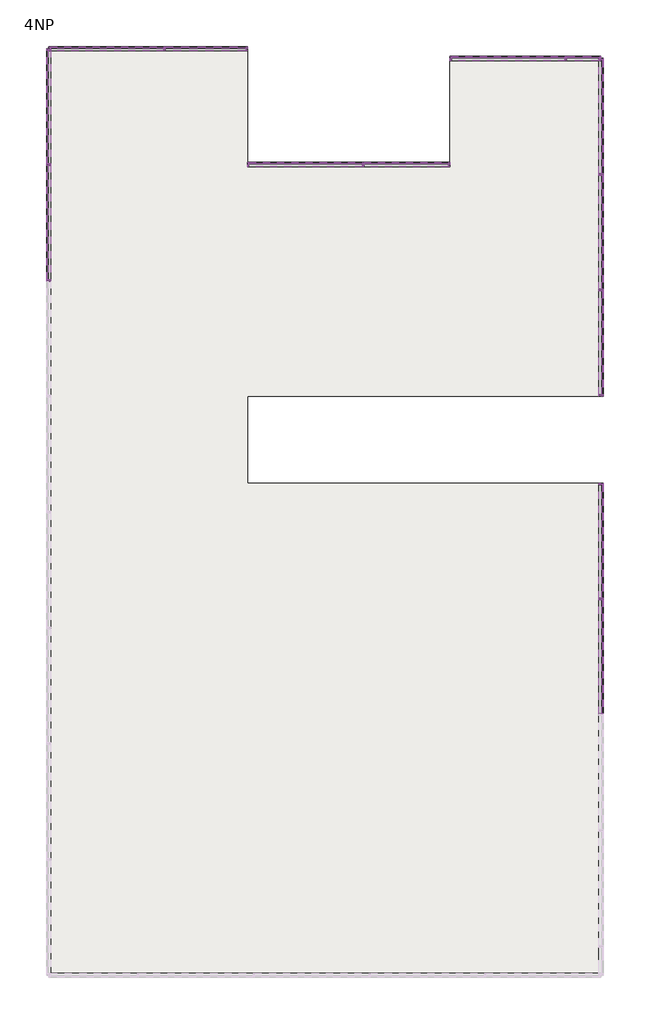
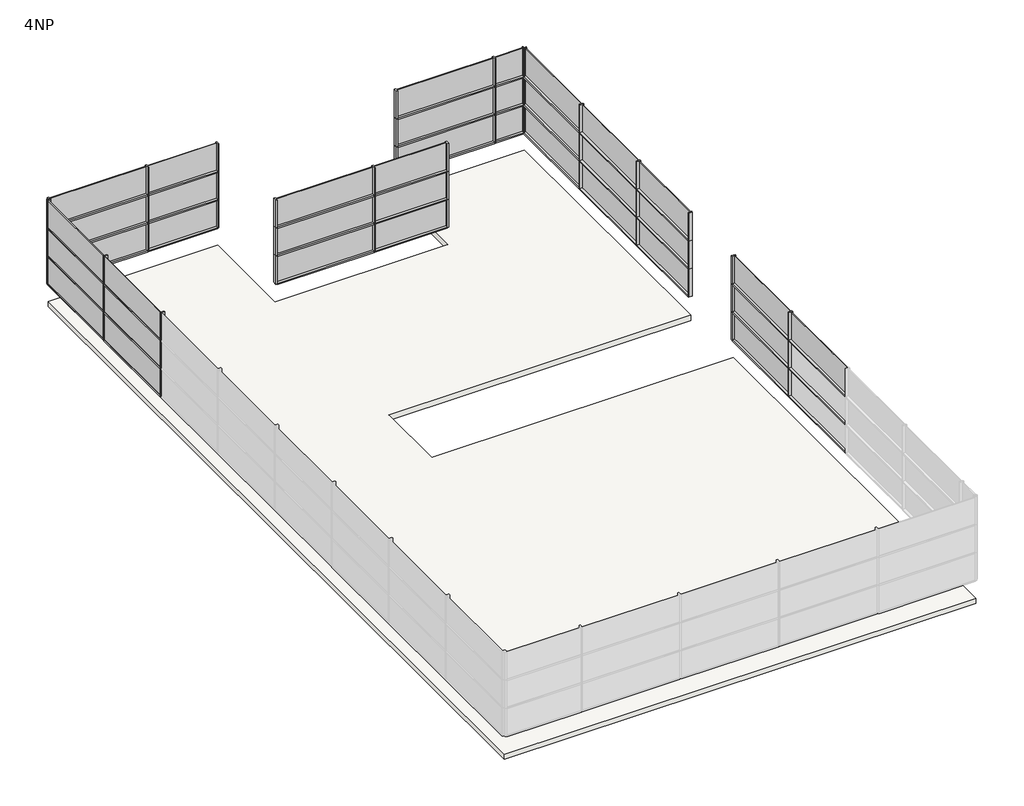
# One storey, part 2 of 2: 93 members, 37 plates, 1 slab.
"""IFC4 building model written with IfcOpenShell, lengths in millimetres."""

from ifc_helpers import new_model, si_unit, frame, origin, place, context, project, spatial, polyline, outline, extrude, transform, mapped, element, save
from components import rectangular_mullion_50_x_150mm_d99dc9be, rectangular_mullion_50_x_150mm_6588f46c, rectangular_mullion_50_x_150mm_3fe1b35e, rectangular_mullion_50_x_150mm_a037c29c, rectangular_mullion_50_x_150mm_c2546fd4, rectangular_mullion_50_x_150mm_8b4cb4b7, rectangular_mullion_50_x_150mm_185cfd49, rectangular_mullion_50_x_150mm_2fe63767, system_panel_glazed_8e9402eb, system_panel_glazed_89ac83a7, system_panel_glazed_5566c609, system_panel_glazed_e890f31e, system_panel_glazed_e3e91f99, system_panel_glazed_39d17f19

model = new_model("IFC4")

# Units and contexts
model_context = context("Model", 3, world=origin())
ifc_project = project(units=[si_unit("LENGTHUNIT", "METRE", prefix="MILLI")], contexts=[model_context])

# Site, building, storey
site = spatial("IfcSite", under=ifc_project)
building = spatial("IfcBuilding", under=site)
storey = spatial("IfcBuildingStorey", under=building, Name="4NP", Elevation=16000.0)

# Members
placement = place(None, origin())
rectangular_mullion_50_x_150mm_shape = rectangular_mullion_50_x_150mm_d99dc9be(model_context)
element("IfcMember", 1, ObjectType="Rectangular Mullion : 50 x 150mm", at=placement, inside=storey, context=model_context, shape_type="MappedRepresentation", body=[
    mapped(rectangular_mullion_50_x_150mm_shape, transform((13503.2660975, 39.3555415, 20400.0), x_axis=(0.0, -1.0, 0.0), y_axis=(1.0, 0.0, 0.0), z_axis=(0.0, 0.0, 1.0))),
])
element("IfcMember", 2, ObjectType="Rectangular Mullion : 50 x 150mm", at=placement, inside=storey, context=model_context, shape_type="MappedRepresentation", body=[
    mapped(rectangular_mullion_50_x_150mm_shape, transform((13503.2660975, 39.3555415, 19200.0), x_axis=(0.0, -1.0, 0.0), y_axis=(1.0, 0.0, 0.0), z_axis=(0.0, 0.0, 1.0))),
])
element("IfcMember", 3, ObjectType="Rectangular Mullion : 50 x 150mm", at=placement, inside=storey, context=model_context, shape_type="MappedRepresentation", body=[
    mapped(rectangular_mullion_50_x_150mm_shape, transform((13503.2660975, 39.3555415, 18000.0), x_axis=(0.0, -1.0, 0.0), y_axis=(1.0, 0.0, 0.0), z_axis=(0.0, 0.0, 1.0))),
])
element("IfcMember", 4, ObjectType="Rectangular Mullion : 50 x 150mm", at=placement, inside=storey, context=model_context, shape_type="MappedRepresentation", body=[
    mapped(rectangular_mullion_50_x_150mm_shape, transform((13503.2660975, 4039.3555415, 20400.0), x_axis=(0.0, -1.0, 0.0), y_axis=(1.0, 0.0, 0.0), z_axis=(0.0, 0.0, 1.0))),
])
element("IfcMember", 5, ObjectType="Rectangular Mullion : 50 x 150mm", at=placement, inside=storey, context=model_context, shape_type="MappedRepresentation", body=[
    mapped(rectangular_mullion_50_x_150mm_shape, transform((13503.2660975, 4039.3555415, 19200.0), x_axis=(0.0, -1.0, 0.0), y_axis=(1.0, 0.0, 0.0), z_axis=(0.0, 0.0, 1.0))),
])
element("IfcMember", 6, ObjectType="Rectangular Mullion : 50 x 150mm", at=placement, inside=storey, context=model_context, shape_type="MappedRepresentation", body=[
    mapped(rectangular_mullion_50_x_150mm_shape, transform((13503.2660975, 4039.3555415, 18000.0), x_axis=(0.0, -1.0, 0.0), y_axis=(1.0, 0.0, 0.0), z_axis=(0.0, 0.0, 1.0))),
])
element("IfcMember", 7, ObjectType="Rectangular Mullion : 50 x 150mm", at=placement, inside=storey, context=model_context, shape_type="MappedRepresentation", body=[
    mapped(rectangular_mullion_50_x_150mm_shape, transform((13503.2660975, -10624.0160434, 18000.0), x_axis=(0.0, -1.0, 0.0), y_axis=(1.0, 0.0, 0.0), z_axis=(0.0, 0.0, 1.0))),
])
element("IfcMember", 8, ObjectType="Rectangular Mullion : 50 x 150mm", at=placement, inside=storey, context=model_context, shape_type="MappedRepresentation", body=[
    mapped(rectangular_mullion_50_x_150mm_shape, transform((13503.2660975, -10624.0160434, 19200.0), x_axis=(0.0, -1.0, 0.0), y_axis=(1.0, 0.0, 0.0), z_axis=(0.0, 0.0, 1.0))),
])
element("IfcMember", 9, ObjectType="Rectangular Mullion : 50 x 150mm", at=placement, inside=storey, context=model_context, shape_type="MappedRepresentation", body=[
    mapped(rectangular_mullion_50_x_150mm_shape, transform((13503.2660975, -10624.0160434, 20400.0), x_axis=(0.0, -1.0, 0.0), y_axis=(1.0, 0.0, 0.0), z_axis=(0.0, 0.0, 1.0))),
])
element("IfcMember", 10, ObjectType="Rectangular Mullion : 50 x 150mm", at=placement, inside=storey, context=model_context, shape_type="MappedRepresentation", body=[
    mapped(rectangular_mullion_50_x_150mm_shape, transform((-5587.173406, 375.9839566, 18000.0), x_axis=(0.0, 1.0, 0.0), y_axis=(-1.0, 0.0, 0.0), z_axis=(0.0, 0.0, 1.0))),
])
element("IfcMember", 11, ObjectType="Rectangular Mullion : 50 x 150mm", at=placement, inside=storey, context=model_context, shape_type="MappedRepresentation", body=[
    mapped(rectangular_mullion_50_x_150mm_shape, transform((-5587.173406, 375.9839566, 19200.0), x_axis=(0.0, 1.0, 0.0), y_axis=(-1.0, 0.0, 0.0), z_axis=(0.0, 0.0, 1.0))),
])
element("IfcMember", 12, ObjectType="Rectangular Mullion : 50 x 150mm", at=placement, inside=storey, context=model_context, shape_type="MappedRepresentation", body=[
    mapped(rectangular_mullion_50_x_150mm_shape, transform((-5587.173406, 375.9839566, 20400.0), x_axis=(0.0, 1.0, 0.0), y_axis=(-1.0, 0.0, 0.0), z_axis=(0.0, 0.0, 1.0))),
])
element("IfcMember", 13, ObjectType="Rectangular Mullion : 50 x 150mm", at=placement, inside=storey, context=model_context, shape_type="MappedRepresentation", body=[
    mapped(rectangular_mullion_50_x_150mm_shape, transform((-5587.173406, 4375.9839566, 18000.0), x_axis=(0.0, 1.0, 0.0), y_axis=(-1.0, 0.0, 0.0), z_axis=(0.0, 0.0, 1.0))),
])
element("IfcMember", 14, ObjectType="Rectangular Mullion : 50 x 150mm", at=placement, inside=storey, context=model_context, shape_type="MappedRepresentation", body=[
    mapped(rectangular_mullion_50_x_150mm_shape, transform((-5587.173406, 4375.9839566, 19200.0), x_axis=(0.0, 1.0, 0.0), y_axis=(-1.0, 0.0, 0.0), z_axis=(0.0, 0.0, 1.0))),
])
element("IfcMember", 15, ObjectType="Rectangular Mullion : 50 x 150mm", at=placement, inside=storey, context=model_context, shape_type="MappedRepresentation", body=[
    mapped(rectangular_mullion_50_x_150mm_shape, transform((-5587.173406, 4375.9839566, 20400.0), x_axis=(0.0, 1.0, 0.0), y_axis=(-1.0, 0.0, 0.0), z_axis=(0.0, 0.0, 1.0))),
])
element("IfcMember", 16, ObjectType="Rectangular Mullion : 50 x 150mm", at=placement, inside=storey, context=model_context, shape_type="MappedRepresentation", body=[
    mapped(rectangular_mullion_50_x_150mm_shape, transform((-1587.173406, 8375.9839566, 18000.0), x_axis=(1.0, 0.0, 0.0), y_axis=(0.0, 1.0, 0.0), z_axis=(0.0, 0.0, 1.0))),
])
element("IfcMember", 17, ObjectType="Rectangular Mullion : 50 x 150mm", at=placement, inside=storey, context=model_context, shape_type="MappedRepresentation", body=[
    mapped(rectangular_mullion_50_x_150mm_shape, transform((-1587.173406, 8375.9839566, 19200.0), x_axis=(1.0, 0.0, 0.0), y_axis=(0.0, 1.0, 0.0), z_axis=(0.0, 0.0, 1.0))),
])
element("IfcMember", 18, ObjectType="Rectangular Mullion : 50 x 150mm", at=placement, inside=storey, context=model_context, shape_type="MappedRepresentation", body=[
    mapped(rectangular_mullion_50_x_150mm_shape, transform((-1587.173406, 8375.9839566, 20400.0), x_axis=(1.0, 0.0, 0.0), y_axis=(0.0, 1.0, 0.0), z_axis=(0.0, 0.0, 1.0))),
])
element("IfcMember", 19, ObjectType="Rectangular Mullion : 50 x 150mm", at=placement, inside=storey, context=model_context, shape_type="MappedRepresentation", body=[
    mapped(rectangular_mullion_50_x_150mm_shape, transform((5278.419219, 4375.9839566, 18000.0), x_axis=(1.0, 0.0, 0.0), y_axis=(0.0, 1.0, 0.0), z_axis=(0.0, 0.0, 1.0))),
])
element("IfcMember", 20, ObjectType="Rectangular Mullion : 50 x 150mm", at=placement, inside=storey, context=model_context, shape_type="MappedRepresentation", body=[
    mapped(rectangular_mullion_50_x_150mm_shape, transform((5278.419219, 4375.9839566, 19200.0), x_axis=(1.0, 0.0, 0.0), y_axis=(0.0, 1.0, 0.0), z_axis=(0.0, 0.0, 1.0))),
])
element("IfcMember", 21, ObjectType="Rectangular Mullion : 50 x 150mm", at=placement, inside=storey, context=model_context, shape_type="MappedRepresentation", body=[
    mapped(rectangular_mullion_50_x_150mm_shape, transform((5278.419219, 4375.9839566, 20400.0), x_axis=(1.0, 0.0, 0.0), y_axis=(0.0, 1.0, 0.0), z_axis=(0.0, 0.0, 1.0))),
])
element("IfcMember", 22, ObjectType="Rectangular Mullion : 50 x 150mm", at=placement, inside=storey, context=model_context, shape_type="MappedRepresentation", body=[
    mapped(rectangular_mullion_50_x_150mm_shape, transform((12278.419219, 8039.3555415, 18000.0), x_axis=(1.0, 0.0, 0.0), y_axis=(0.0, 1.0, 0.0), z_axis=(0.0, 0.0, 1.0))),
])
element("IfcMember", 23, ObjectType="Rectangular Mullion : 50 x 150mm", at=placement, inside=storey, context=model_context, shape_type="MappedRepresentation", body=[
    mapped(rectangular_mullion_50_x_150mm_shape, transform((12278.419219, 8039.3555415, 19200.0), x_axis=(1.0, 0.0, 0.0), y_axis=(0.0, 1.0, 0.0), z_axis=(0.0, 0.0, 1.0))),
])
element("IfcMember", 24, ObjectType="Rectangular Mullion : 50 x 150mm", at=placement, inside=storey, context=model_context, shape_type="MappedRepresentation", body=[
    mapped(rectangular_mullion_50_x_150mm_shape, transform((12278.419219, 8039.3555415, 20400.0), x_axis=(1.0, 0.0, 0.0), y_axis=(0.0, 1.0, 0.0), z_axis=(0.0, 0.0, 1.0))),
])
rectangular_mullion_50_x_150mm_2_shape = rectangular_mullion_50_x_150mm_6588f46c(model_context)
element("IfcMember", 25, ObjectType="Rectangular Mullion : 50 x 150mm", at=placement, inside=storey, context=model_context, shape_type="MappedRepresentation", body=[
    mapped(rectangular_mullion_50_x_150mm_2_shape, transform((13503.2660975, -3624.0160434, 20400.0), x_axis=(0.0, -1.0, 0.0), y_axis=(1.0, 0.0, 0.0), z_axis=(0.0, 0.0, 1.0))),
])
element("IfcMember", 26, ObjectType="Rectangular Mullion : 50 x 150mm", at=placement, inside=storey, context=model_context, shape_type="MappedRepresentation", body=[
    mapped(rectangular_mullion_50_x_150mm_2_shape, transform((13503.2660975, -3624.0160434, 19200.0), x_axis=(0.0, -1.0, 0.0), y_axis=(1.0, 0.0, 0.0), z_axis=(0.0, 0.0, 1.0))),
])
element("IfcMember", 27, ObjectType="Rectangular Mullion : 50 x 150mm", at=placement, inside=storey, context=model_context, shape_type="MappedRepresentation", body=[
    mapped(rectangular_mullion_50_x_150mm_2_shape, transform((13503.2660975, -3624.0160434, 18000.0), x_axis=(0.0, -1.0, 0.0), y_axis=(1.0, 0.0, 0.0), z_axis=(0.0, 0.0, 1.0))),
])
element("IfcMember", 28, ObjectType="Rectangular Mullion : 50 x 150mm", at=placement, inside=storey, context=model_context, shape_type="MappedRepresentation", body=[
    mapped(rectangular_mullion_50_x_150mm_2_shape, transform((-5587.173406, 8375.9839566, 18000.0), x_axis=(0.0, 1.0, 0.0), y_axis=(-1.0, 0.0, 0.0), z_axis=(0.0, 0.0, 1.0))),
])
element("IfcMember", 29, ObjectType="Rectangular Mullion : 50 x 150mm", at=placement, inside=storey, context=model_context, shape_type="MappedRepresentation", body=[
    mapped(rectangular_mullion_50_x_150mm_2_shape, transform((-5587.173406, 8375.9839566, 19200.0), x_axis=(0.0, 1.0, 0.0), y_axis=(-1.0, 0.0, 0.0), z_axis=(0.0, 0.0, 1.0))),
])
element("IfcMember", 30, ObjectType="Rectangular Mullion : 50 x 150mm", at=placement, inside=storey, context=model_context, shape_type="MappedRepresentation", body=[
    mapped(rectangular_mullion_50_x_150mm_2_shape, transform((-5587.173406, 8375.9839566, 20400.0), x_axis=(0.0, 1.0, 0.0), y_axis=(-1.0, 0.0, 0.0), z_axis=(0.0, 0.0, 1.0))),
])
element("IfcMember", 31, ObjectType="Rectangular Mullion : 50 x 150mm", at=placement, inside=storey, context=model_context, shape_type="MappedRepresentation", body=[
    mapped(rectangular_mullion_50_x_150mm_2_shape, transform((1278.419219, 8375.9839566, 18000.0), x_axis=(1.0, 0.0, 0.0), y_axis=(0.0, 1.0, 0.0), z_axis=(0.0, 0.0, 1.0))),
])
element("IfcMember", 32, ObjectType="Rectangular Mullion : 50 x 150mm", at=placement, inside=storey, context=model_context, shape_type="MappedRepresentation", body=[
    mapped(rectangular_mullion_50_x_150mm_2_shape, transform((1278.419219, 8375.9839566, 19200.0), x_axis=(1.0, 0.0, 0.0), y_axis=(0.0, 1.0, 0.0), z_axis=(0.0, 0.0, 1.0))),
])
element("IfcMember", 33, ObjectType="Rectangular Mullion : 50 x 150mm", at=placement, inside=storey, context=model_context, shape_type="MappedRepresentation", body=[
    mapped(rectangular_mullion_50_x_150mm_2_shape, transform((1278.419219, 8375.9839566, 20400.0), x_axis=(1.0, 0.0, 0.0), y_axis=(0.0, 1.0, 0.0), z_axis=(0.0, 0.0, 1.0))),
])
element("IfcMember", 34, ObjectType="Rectangular Mullion : 50 x 150mm", at=placement, inside=storey, context=model_context, shape_type="MappedRepresentation", body=[
    mapped(rectangular_mullion_50_x_150mm_2_shape, transform((8278.419219, 4375.9839566, 18000.0), x_axis=(1.0, 0.0, 0.0), y_axis=(0.0, 1.0, 0.0), z_axis=(0.0, 0.0, 1.0))),
])
element("IfcMember", 35, ObjectType="Rectangular Mullion : 50 x 150mm", at=placement, inside=storey, context=model_context, shape_type="MappedRepresentation", body=[
    mapped(rectangular_mullion_50_x_150mm_2_shape, transform((8278.419219, 4375.9839566, 19200.0), x_axis=(1.0, 0.0, 0.0), y_axis=(0.0, 1.0, 0.0), z_axis=(0.0, 0.0, 1.0))),
])
element("IfcMember", 36, ObjectType="Rectangular Mullion : 50 x 150mm", at=placement, inside=storey, context=model_context, shape_type="MappedRepresentation", body=[
    mapped(rectangular_mullion_50_x_150mm_2_shape, transform((8278.419219, 4375.9839566, 20400.0), x_axis=(1.0, 0.0, 0.0), y_axis=(0.0, 1.0, 0.0), z_axis=(0.0, 0.0, 1.0))),
])
element("IfcMember", 37, ObjectType="Rectangular Mullion : 50 x 150mm", at=placement, inside=storey, context=model_context, shape_type="MappedRepresentation", body=[
    mapped(rectangular_mullion_50_x_150mm_2_shape, transform((13503.2660975, 8039.3555415, 18000.0), x_axis=(1.0, 0.0, 0.0), y_axis=(0.0, 1.0, 0.0), z_axis=(0.0, 0.0, 1.0))),
])
element("IfcMember", 38, ObjectType="Rectangular Mullion : 50 x 150mm", at=placement, inside=storey, context=model_context, shape_type="MappedRepresentation", body=[
    mapped(rectangular_mullion_50_x_150mm_2_shape, transform((13503.2660975, 8039.3555415, 19200.0), x_axis=(1.0, 0.0, 0.0), y_axis=(0.0, 1.0, 0.0), z_axis=(0.0, 0.0, 1.0))),
])
element("IfcMember", 39, ObjectType="Rectangular Mullion : 50 x 150mm", at=placement, inside=storey, context=model_context, shape_type="MappedRepresentation", body=[
    mapped(rectangular_mullion_50_x_150mm_2_shape, transform((13503.2660975, 8039.3555415, 20400.0), x_axis=(1.0, 0.0, 0.0), y_axis=(0.0, 1.0, 0.0), z_axis=(0.0, 0.0, 1.0))),
])
rectangular_mullion_50_x_150mm_3_shape = rectangular_mullion_50_x_150mm_3fe1b35e(model_context)
element("IfcMember", 40, ObjectType="Rectangular Mullion : 50 x 150mm", at=placement, inside=storey, context=model_context, shape_type="MappedRepresentation", body=[
    mapped(rectangular_mullion_50_x_150mm_3_shape, transform((13503.2660975, 14.3555415, 19200.0), x_axis=(0.0, 0.0, 1.0), y_axis=(1.0, 0.0, 0.0), z_axis=(0.0, 1.0, 0.0))),
])
element("IfcMember", 41, ObjectType="Rectangular Mullion : 50 x 150mm", at=placement, inside=storey, context=model_context, shape_type="MappedRepresentation", body=[
    mapped(rectangular_mullion_50_x_150mm_3_shape, transform((13503.2660975, 14.3555415, 18000.0), x_axis=(0.0, 0.0, 1.0), y_axis=(1.0, 0.0, 0.0), z_axis=(0.0, 1.0, 0.0))),
])
element("IfcMember", 42, ObjectType="Rectangular Mullion : 50 x 150mm", at=placement, inside=storey, context=model_context, shape_type="MappedRepresentation", body=[
    mapped(rectangular_mullion_50_x_150mm_3_shape, transform((13503.2660975, 14.3555415, 16800.0), x_axis=(0.0, 0.0, 1.0), y_axis=(1.0, 0.0, 0.0), z_axis=(0.0, 1.0, 0.0))),
])
rectangular_mullion_50_x_150mm_4_shape = rectangular_mullion_50_x_150mm_a037c29c(model_context)
element("IfcMember", 43, ObjectType="Rectangular Mullion : 50 x 150mm", at=placement, inside=storey, context=model_context, shape_type="MappedRepresentation", body=[
    mapped(rectangular_mullion_50_x_150mm_4_shape, transform((13503.2660975, 4014.3555415, 19200.0), x_axis=(0.0, 0.0, 1.0), y_axis=(1.0, 0.0, 0.0), z_axis=(0.0, 1.0, 0.0))),
])
element("IfcMember", 44, ObjectType="Rectangular Mullion : 50 x 150mm", at=placement, inside=storey, context=model_context, shape_type="MappedRepresentation", body=[
    mapped(rectangular_mullion_50_x_150mm_4_shape, transform((13503.2660975, 4014.3555415, 18000.0), x_axis=(0.0, 0.0, 1.0), y_axis=(1.0, 0.0, 0.0), z_axis=(0.0, 1.0, 0.0))),
])
element("IfcMember", 45, ObjectType="Rectangular Mullion : 50 x 150mm", at=placement, inside=storey, context=model_context, shape_type="MappedRepresentation", body=[
    mapped(rectangular_mullion_50_x_150mm_4_shape, transform((13503.2660975, 4014.3555415, 16800.0), x_axis=(0.0, 0.0, 1.0), y_axis=(1.0, 0.0, 0.0), z_axis=(0.0, 1.0, 0.0))),
])
element("IfcMember", 46, ObjectType="Rectangular Mullion : 50 x 150mm", at=placement, inside=storey, context=model_context, shape_type="MappedRepresentation", body=[
    mapped(rectangular_mullion_50_x_150mm_4_shape, transform((13503.2660975, -10649.0160434, 16800.0), x_axis=(0.0, 0.0, 1.0), y_axis=(1.0, 0.0, 0.0), z_axis=(0.0, 1.0, 0.0))),
])
element("IfcMember", 47, ObjectType="Rectangular Mullion : 50 x 150mm", at=placement, inside=storey, context=model_context, shape_type="MappedRepresentation", body=[
    mapped(rectangular_mullion_50_x_150mm_4_shape, transform((13503.2660975, -10649.0160434, 18000.0), x_axis=(0.0, 0.0, 1.0), y_axis=(1.0, 0.0, 0.0), z_axis=(0.0, 1.0, 0.0))),
])
element("IfcMember", 48, ObjectType="Rectangular Mullion : 50 x 150mm", at=placement, inside=storey, context=model_context, shape_type="MappedRepresentation", body=[
    mapped(rectangular_mullion_50_x_150mm_4_shape, transform((13503.2660975, -10649.0160434, 19200.0), x_axis=(0.0, 0.0, 1.0), y_axis=(1.0, 0.0, 0.0), z_axis=(0.0, 1.0, 0.0))),
])
element("IfcMember", 49, ObjectType="Rectangular Mullion : 50 x 150mm", at=placement, inside=storey, context=model_context, shape_type="MappedRepresentation", body=[
    mapped(rectangular_mullion_50_x_150mm_4_shape, transform((-5587.173406, 400.9839566, 16800.0), x_axis=(0.0, 0.0, 1.0), y_axis=(-1.0, 0.0, 0.0), z_axis=(0.0, -1.0, 0.0))),
])
element("IfcMember", 50, ObjectType="Rectangular Mullion : 50 x 150mm", at=placement, inside=storey, context=model_context, shape_type="MappedRepresentation", body=[
    mapped(rectangular_mullion_50_x_150mm_4_shape, transform((-5587.173406, 400.9839566, 18000.0), x_axis=(0.0, 0.0, 1.0), y_axis=(-1.0, 0.0, 0.0), z_axis=(0.0, -1.0, 0.0))),
])
element("IfcMember", 51, ObjectType="Rectangular Mullion : 50 x 150mm", at=placement, inside=storey, context=model_context, shape_type="MappedRepresentation", body=[
    mapped(rectangular_mullion_50_x_150mm_4_shape, transform((-5587.173406, 400.9839566, 19200.0), x_axis=(0.0, 0.0, 1.0), y_axis=(-1.0, 0.0, 0.0), z_axis=(0.0, -1.0, 0.0))),
])
rectangular_mullion_50_x_150mm_5_shape = rectangular_mullion_50_x_150mm_c2546fd4(model_context)
element("IfcMember", 52, ObjectType="Rectangular Mullion : 50 x 150mm", at=placement, inside=storey, context=model_context, shape_type="MappedRepresentation", body=[
    mapped(rectangular_mullion_50_x_150mm_5_shape, transform((13503.2660975, 7989.3555415, 19200.0), x_axis=(0.0, 0.0, 1.0), y_axis=(1.0, 0.0, 0.0), z_axis=(0.0, 1.0, 0.0))),
])
element("IfcMember", 53, ObjectType="Rectangular Mullion : 50 x 150mm", at=placement, inside=storey, context=model_context, shape_type="MappedRepresentation", body=[
    mapped(rectangular_mullion_50_x_150mm_5_shape, transform((13503.2660975, 7989.3555415, 18000.0), x_axis=(0.0, 0.0, 1.0), y_axis=(1.0, 0.0, 0.0), z_axis=(0.0, 1.0, 0.0))),
])
element("IfcMember", 54, ObjectType="Rectangular Mullion : 50 x 150mm", at=placement, inside=storey, context=model_context, shape_type="MappedRepresentation", body=[
    mapped(rectangular_mullion_50_x_150mm_5_shape, transform((13503.2660975, 7989.3555415, 16800.0), x_axis=(0.0, 0.0, 1.0), y_axis=(1.0, 0.0, 0.0), z_axis=(0.0, 1.0, 0.0))),
])
element("IfcMember", 55, ObjectType="Rectangular Mullion : 50 x 150mm", at=placement, inside=storey, context=model_context, shape_type="MappedRepresentation", body=[
    mapped(rectangular_mullion_50_x_150mm_5_shape, transform((13503.2660975, -6674.0160434, 16800.0), x_axis=(0.0, 0.0, 1.0), y_axis=(1.0, 0.0, 0.0), z_axis=(0.0, 1.0, 0.0))),
])
element("IfcMember", 56, ObjectType="Rectangular Mullion : 50 x 150mm", at=placement, inside=storey, context=model_context, shape_type="MappedRepresentation", body=[
    mapped(rectangular_mullion_50_x_150mm_5_shape, transform((13503.2660975, -6674.0160434, 18000.0), x_axis=(0.0, 0.0, 1.0), y_axis=(1.0, 0.0, 0.0), z_axis=(0.0, 1.0, 0.0))),
])
element("IfcMember", 57, ObjectType="Rectangular Mullion : 50 x 150mm", at=placement, inside=storey, context=model_context, shape_type="MappedRepresentation", body=[
    mapped(rectangular_mullion_50_x_150mm_5_shape, transform((13503.2660975, -6674.0160434, 19200.0), x_axis=(0.0, 0.0, 1.0), y_axis=(1.0, 0.0, 0.0), z_axis=(0.0, 1.0, 0.0))),
])
element("IfcMember", 58, ObjectType="Rectangular Mullion : 50 x 150mm", at=placement, inside=storey, context=model_context, shape_type="MappedRepresentation", body=[
    mapped(rectangular_mullion_50_x_150mm_5_shape, transform((-5587.173406, 4400.9839566, 16800.0), x_axis=(0.0, 0.0, 1.0), y_axis=(-1.0, 0.0, 0.0), z_axis=(0.0, -1.0, 0.0))),
])
element("IfcMember", 59, ObjectType="Rectangular Mullion : 50 x 150mm", at=placement, inside=storey, context=model_context, shape_type="MappedRepresentation", body=[
    mapped(rectangular_mullion_50_x_150mm_5_shape, transform((-5587.173406, 4400.9839566, 18000.0), x_axis=(0.0, 0.0, 1.0), y_axis=(-1.0, 0.0, 0.0), z_axis=(0.0, -1.0, 0.0))),
])
element("IfcMember", 60, ObjectType="Rectangular Mullion : 50 x 150mm", at=placement, inside=storey, context=model_context, shape_type="MappedRepresentation", body=[
    mapped(rectangular_mullion_50_x_150mm_5_shape, transform((-5587.173406, 4400.9839566, 19200.0), x_axis=(0.0, 0.0, 1.0), y_axis=(-1.0, 0.0, 0.0), z_axis=(0.0, -1.0, 0.0))),
])
element("IfcMember", 61, ObjectType="Rectangular Mullion : 50 x 150mm", at=placement, inside=storey, context=model_context, shape_type="MappedRepresentation", body=[
    mapped(rectangular_mullion_50_x_150mm_5_shape, transform((-5537.173406, 8375.9839566, 18000.0), x_axis=(0.0, 0.0, 1.0), y_axis=(0.0, 1.0, 0.0), z_axis=(-1.0, 0.0, 0.0))),
])
element("IfcMember", 62, ObjectType="Rectangular Mullion : 50 x 150mm", at=placement, inside=storey, context=model_context, shape_type="MappedRepresentation", body=[
    mapped(rectangular_mullion_50_x_150mm_5_shape, transform((-5537.173406, 8375.9839566, 19200.0), x_axis=(0.0, 0.0, 1.0), y_axis=(0.0, 1.0, 0.0), z_axis=(-1.0, 0.0, 0.0))),
])
element("IfcMember", 63, ObjectType="Rectangular Mullion : 50 x 150mm", at=placement, inside=storey, context=model_context, shape_type="MappedRepresentation", body=[
    mapped(rectangular_mullion_50_x_150mm_5_shape, transform((-5537.173406, 8375.9839566, 16800.0), x_axis=(0.0, 0.0, 1.0), y_axis=(0.0, 1.0, 0.0), z_axis=(-1.0, 0.0, 0.0))),
])
element("IfcMember", 64, ObjectType="Rectangular Mullion : 50 x 150mm", at=placement, inside=storey, context=model_context, shape_type="MappedRepresentation", body=[
    mapped(rectangular_mullion_50_x_150mm_5_shape, transform((1328.419219, 4375.9839566, 16800.0), x_axis=(0.0, 0.0, 1.0), y_axis=(0.0, 1.0, 0.0), z_axis=(-1.0, 0.0, 0.0))),
])
element("IfcMember", 65, ObjectType="Rectangular Mullion : 50 x 150mm", at=placement, inside=storey, context=model_context, shape_type="MappedRepresentation", body=[
    mapped(rectangular_mullion_50_x_150mm_5_shape, transform((1328.419219, 4375.9839566, 18000.0), x_axis=(0.0, 0.0, 1.0), y_axis=(0.0, 1.0, 0.0), z_axis=(-1.0, 0.0, 0.0))),
])
element("IfcMember", 66, ObjectType="Rectangular Mullion : 50 x 150mm", at=placement, inside=storey, context=model_context, shape_type="MappedRepresentation", body=[
    mapped(rectangular_mullion_50_x_150mm_5_shape, transform((1328.419219, 4375.9839566, 19200.0), x_axis=(0.0, 0.0, 1.0), y_axis=(0.0, 1.0, 0.0), z_axis=(-1.0, 0.0, 0.0))),
])
element("IfcMember", 67, ObjectType="Rectangular Mullion : 50 x 150mm", at=placement, inside=storey, context=model_context, shape_type="MappedRepresentation", body=[
    mapped(rectangular_mullion_50_x_150mm_5_shape, transform((8328.419219, 8039.3555415, 16800.0), x_axis=(0.0, 0.0, 1.0), y_axis=(0.0, 1.0, 0.0), z_axis=(-1.0, 0.0, 0.0))),
])
element("IfcMember", 68, ObjectType="Rectangular Mullion : 50 x 150mm", at=placement, inside=storey, context=model_context, shape_type="MappedRepresentation", body=[
    mapped(rectangular_mullion_50_x_150mm_5_shape, transform((8328.419219, 8039.3555415, 18000.0), x_axis=(0.0, 0.0, 1.0), y_axis=(0.0, 1.0, 0.0), z_axis=(-1.0, 0.0, 0.0))),
])
element("IfcMember", 69, ObjectType="Rectangular Mullion : 50 x 150mm", at=placement, inside=storey, context=model_context, shape_type="MappedRepresentation", body=[
    mapped(rectangular_mullion_50_x_150mm_5_shape, transform((8328.419219, 8039.3555415, 19200.0), x_axis=(0.0, 0.0, 1.0), y_axis=(0.0, 1.0, 0.0), z_axis=(-1.0, 0.0, 0.0))),
])
element("IfcMember", 70, ObjectType="Rectangular Mullion : 50 x 150mm", at=placement, inside=storey, context=model_context, shape_type="MappedRepresentation", body=[
    mapped(rectangular_mullion_50_x_150mm_2_shape, transform((13503.2660975, 8039.3555415, 19200.0), x_axis=(0.0, 1.0, 0.0), y_axis=(1.0, 0.0, 0.0), z_axis=(0.0, 0.0, -1.0))),
])
element("IfcMember", 71, ObjectType="Rectangular Mullion : 50 x 150mm", at=placement, inside=storey, context=model_context, shape_type="MappedRepresentation", body=[
    mapped(rectangular_mullion_50_x_150mm_2_shape, transform((13503.2660975, 8039.3555415, 18000.0), x_axis=(0.0, 1.0, 0.0), y_axis=(1.0, 0.0, 0.0), z_axis=(0.0, 0.0, -1.0))),
])
element("IfcMember", 72, ObjectType="Rectangular Mullion : 50 x 150mm", at=placement, inside=storey, context=model_context, shape_type="MappedRepresentation", body=[
    mapped(rectangular_mullion_50_x_150mm_2_shape, transform((13503.2660975, 8039.3555415, 16800.0), x_axis=(0.0, 1.0, 0.0), y_axis=(1.0, 0.0, 0.0), z_axis=(0.0, 0.0, -1.0))),
])
element("IfcMember", 73, ObjectType="Rectangular Mullion : 50 x 150mm", at=placement, inside=storey, context=model_context, shape_type="MappedRepresentation", body=[
    mapped(rectangular_mullion_50_x_150mm_2_shape, transform((13503.2660975, -6624.0160434, 16800.0), x_axis=(0.0, 1.0, 0.0), y_axis=(1.0, 0.0, 0.0), z_axis=(0.0, 0.0, -1.0))),
])
element("IfcMember", 74, ObjectType="Rectangular Mullion : 50 x 150mm", at=placement, inside=storey, context=model_context, shape_type="MappedRepresentation", body=[
    mapped(rectangular_mullion_50_x_150mm_2_shape, transform((13503.2660975, -6624.0160434, 18000.0), x_axis=(0.0, 1.0, 0.0), y_axis=(1.0, 0.0, 0.0), z_axis=(0.0, 0.0, -1.0))),
])
element("IfcMember", 75, ObjectType="Rectangular Mullion : 50 x 150mm", at=placement, inside=storey, context=model_context, shape_type="MappedRepresentation", body=[
    mapped(rectangular_mullion_50_x_150mm_2_shape, transform((13503.2660975, -6624.0160434, 19200.0), x_axis=(0.0, 1.0, 0.0), y_axis=(1.0, 0.0, 0.0), z_axis=(0.0, 0.0, -1.0))),
])
element("IfcMember", 76, ObjectType="Rectangular Mullion : 50 x 150mm", at=placement, inside=storey, context=model_context, shape_type="MappedRepresentation", body=[
    mapped(rectangular_mullion_50_x_150mm_2_shape, transform((-5587.173406, 8375.9839566, 16800.0), x_axis=(-1.0, 0.0, 0.0), y_axis=(0.0, 1.0, 0.0), z_axis=(0.0, 0.0, -1.0))),
])
element("IfcMember", 77, ObjectType="Rectangular Mullion : 50 x 150mm", at=placement, inside=storey, context=model_context, shape_type="MappedRepresentation", body=[
    mapped(rectangular_mullion_50_x_150mm_2_shape, transform((-5587.173406, 8375.9839566, 18000.0), x_axis=(-1.0, 0.0, 0.0), y_axis=(0.0, 1.0, 0.0), z_axis=(0.0, 0.0, -1.0))),
])
element("IfcMember", 78, ObjectType="Rectangular Mullion : 50 x 150mm", at=placement, inside=storey, context=model_context, shape_type="MappedRepresentation", body=[
    mapped(rectangular_mullion_50_x_150mm_2_shape, transform((-5587.173406, 8375.9839566, 19200.0), x_axis=(-1.0, 0.0, 0.0), y_axis=(0.0, 1.0, 0.0), z_axis=(0.0, 0.0, -1.0))),
])
element("IfcMember", 79, ObjectType="Rectangular Mullion : 50 x 150mm", at=placement, inside=storey, context=model_context, shape_type="MappedRepresentation", body=[
    mapped(rectangular_mullion_50_x_150mm_2_shape, transform((1278.419219, 4375.9839566, 16800.0), x_axis=(-1.0, 0.0, 0.0), y_axis=(0.0, 1.0, 0.0), z_axis=(0.0, 0.0, -1.0))),
])
element("IfcMember", 80, ObjectType="Rectangular Mullion : 50 x 150mm", at=placement, inside=storey, context=model_context, shape_type="MappedRepresentation", body=[
    mapped(rectangular_mullion_50_x_150mm_2_shape, transform((1278.419219, 4375.9839566, 18000.0), x_axis=(-1.0, 0.0, 0.0), y_axis=(0.0, 1.0, 0.0), z_axis=(0.0, 0.0, -1.0))),
])
element("IfcMember", 81, ObjectType="Rectangular Mullion : 50 x 150mm", at=placement, inside=storey, context=model_context, shape_type="MappedRepresentation", body=[
    mapped(rectangular_mullion_50_x_150mm_2_shape, transform((1278.419219, 4375.9839566, 19200.0), x_axis=(-1.0, 0.0, 0.0), y_axis=(0.0, 1.0, 0.0), z_axis=(0.0, 0.0, -1.0))),
])
element("IfcMember", 82, ObjectType="Rectangular Mullion : 50 x 150mm", at=placement, inside=storey, context=model_context, shape_type="MappedRepresentation", body=[
    mapped(rectangular_mullion_50_x_150mm_2_shape, transform((8278.419219, 8039.3555415, 16800.0), x_axis=(-1.0, 0.0, 0.0), y_axis=(0.0, 1.0, 0.0), z_axis=(0.0, 0.0, -1.0))),
])
element("IfcMember", 83, ObjectType="Rectangular Mullion : 50 x 150mm", at=placement, inside=storey, context=model_context, shape_type="MappedRepresentation", body=[
    mapped(rectangular_mullion_50_x_150mm_2_shape, transform((8278.419219, 8039.3555415, 18000.0), x_axis=(-1.0, 0.0, 0.0), y_axis=(0.0, 1.0, 0.0), z_axis=(0.0, 0.0, -1.0))),
])
element("IfcMember", 84, ObjectType="Rectangular Mullion : 50 x 150mm", at=placement, inside=storey, context=model_context, shape_type="MappedRepresentation", body=[
    mapped(rectangular_mullion_50_x_150mm_2_shape, transform((8278.419219, 8039.3555415, 19200.0), x_axis=(-1.0, 0.0, 0.0), y_axis=(0.0, 1.0, 0.0), z_axis=(0.0, 0.0, -1.0))),
])
rectangular_mullion_50_x_150mm_6_shape = rectangular_mullion_50_x_150mm_8b4cb4b7(model_context)
element("IfcMember", 85, ObjectType="Rectangular Mullion : 50 x 150mm", at=placement, inside=storey, context=model_context, shape_type="MappedRepresentation", body=[
    mapped(rectangular_mullion_50_x_150mm_6_shape, transform((-1562.173406, 8375.9839566, 16800.0), x_axis=(0.0, 0.0, 1.0), y_axis=(0.0, 1.0, 0.0), z_axis=(-1.0, 0.0, 0.0))),
])
element("IfcMember", 86, ObjectType="Rectangular Mullion : 50 x 150mm", at=placement, inside=storey, context=model_context, shape_type="MappedRepresentation", body=[
    mapped(rectangular_mullion_50_x_150mm_6_shape, transform((-1562.173406, 8375.9839566, 18000.0), x_axis=(0.0, 0.0, 1.0), y_axis=(0.0, 1.0, 0.0), z_axis=(-1.0, 0.0, 0.0))),
])
element("IfcMember", 87, ObjectType="Rectangular Mullion : 50 x 150mm", at=placement, inside=storey, context=model_context, shape_type="MappedRepresentation", body=[
    mapped(rectangular_mullion_50_x_150mm_6_shape, transform((-1562.173406, 8375.9839566, 19200.0), x_axis=(0.0, 0.0, 1.0), y_axis=(0.0, 1.0, 0.0), z_axis=(-1.0, 0.0, 0.0))),
])
rectangular_mullion_50_x_150mm_7_shape = rectangular_mullion_50_x_150mm_185cfd49(model_context)
element("IfcMember", 88, ObjectType="Rectangular Mullion : 50 x 150mm", at=placement, inside=storey, context=model_context, shape_type="MappedRepresentation", body=[
    mapped(rectangular_mullion_50_x_150mm_7_shape, transform((5303.419219, 4375.9839566, 16800.0), x_axis=(0.0, 0.0, 1.0), y_axis=(0.0, 1.0, 0.0), z_axis=(-1.0, 0.0, 0.0))),
])
element("IfcMember", 89, ObjectType="Rectangular Mullion : 50 x 150mm", at=placement, inside=storey, context=model_context, shape_type="MappedRepresentation", body=[
    mapped(rectangular_mullion_50_x_150mm_7_shape, transform((5303.419219, 4375.9839566, 18000.0), x_axis=(0.0, 0.0, 1.0), y_axis=(0.0, 1.0, 0.0), z_axis=(-1.0, 0.0, 0.0))),
])
element("IfcMember", 90, ObjectType="Rectangular Mullion : 50 x 150mm", at=placement, inside=storey, context=model_context, shape_type="MappedRepresentation", body=[
    mapped(rectangular_mullion_50_x_150mm_7_shape, transform((5303.419219, 4375.9839566, 19200.0), x_axis=(0.0, 0.0, 1.0), y_axis=(0.0, 1.0, 0.0), z_axis=(-1.0, 0.0, 0.0))),
])
rectangular_mullion_50_x_150mm_8_shape = rectangular_mullion_50_x_150mm_2fe63767(model_context)
element("IfcMember", 91, ObjectType="Rectangular Mullion : 50 x 150mm", at=placement, inside=storey, context=model_context, shape_type="MappedRepresentation", body=[
    mapped(rectangular_mullion_50_x_150mm_8_shape, transform((12303.419219, 8039.3555415, 16800.0), x_axis=(0.0, 0.0, 1.0), y_axis=(0.0, 1.0, 0.0), z_axis=(-1.0, 0.0, 0.0))),
])
element("IfcMember", 92, ObjectType="Rectangular Mullion : 50 x 150mm", at=placement, inside=storey, context=model_context, shape_type="MappedRepresentation", body=[
    mapped(rectangular_mullion_50_x_150mm_8_shape, transform((12303.419219, 8039.3555415, 18000.0), x_axis=(0.0, 0.0, 1.0), y_axis=(0.0, 1.0, 0.0), z_axis=(-1.0, 0.0, 0.0))),
])
element("IfcMember", 93, ObjectType="Rectangular Mullion : 50 x 150mm", at=placement, inside=storey, context=model_context, shape_type="MappedRepresentation", body=[
    mapped(rectangular_mullion_50_x_150mm_8_shape, transform((12303.419219, 8039.3555415, 19200.0), x_axis=(0.0, 0.0, 1.0), y_axis=(0.0, 1.0, 0.0), z_axis=(-1.0, 0.0, 0.0))),
])

# Plates
system_panel_glazed_shape = system_panel_glazed_8e9402eb(model_context)
element("IfcPlate", 94, ObjectType="System Panel : Glazed", at=placement, inside=storey, context=model_context, shape_type="MappedRepresentation", body=[
    mapped(system_panel_glazed_shape, transform((-5587.173406, 6363.4839566, 16825.0), x_axis=(0.0, 1.0, 0.0), y_axis=(-1.0, 0.0, 0.0), z_axis=(0.0, 0.0, 1.0))),
])
element("IfcPlate", 95, ObjectType="System Panel : Glazed", at=placement, inside=storey, context=model_context, shape_type="MappedRepresentation", body=[
    mapped(system_panel_glazed_shape, transform((-5587.173406, 6363.4839566, 18025.0), x_axis=(0.0, 1.0, 0.0), y_axis=(-1.0, 0.0, 0.0), z_axis=(0.0, 0.0, 1.0))),
])
element("IfcPlate", 96, ObjectType="System Panel : Glazed", at=placement, inside=storey, context=model_context, shape_type="MappedRepresentation", body=[
    mapped(system_panel_glazed_shape, transform((-5587.173406, 6363.4839566, 19225.0), x_axis=(0.0, 1.0, 0.0), y_axis=(-1.0, 0.0, 0.0), z_axis=(0.0, 0.0, 1.0))),
])
element("IfcPlate", 97, ObjectType="System Panel : Glazed", at=placement, inside=storey, context=model_context, shape_type="MappedRepresentation", body=[
    mapped(system_panel_glazed_shape, transform((13503.2660975, -8636.5160434, 16825.0), x_axis=(0.0, -1.0, 0.0), y_axis=(1.0, 0.0, 0.0), z_axis=(0.0, 0.0, 1.0))),
])
element("IfcPlate", 98, ObjectType="System Panel : Glazed", at=placement, inside=storey, context=model_context, shape_type="MappedRepresentation", body=[
    mapped(system_panel_glazed_shape, transform((13503.2660975, -8636.5160434, 18025.0), x_axis=(0.0, -1.0, 0.0), y_axis=(1.0, 0.0, 0.0), z_axis=(0.0, 0.0, 1.0))),
])
element("IfcPlate", 99, ObjectType="System Panel : Glazed", at=placement, inside=storey, context=model_context, shape_type="MappedRepresentation", body=[
    mapped(system_panel_glazed_shape, transform((13503.2660975, -8636.5160434, 19225.0), x_axis=(0.0, -1.0, 0.0), y_axis=(1.0, 0.0, 0.0), z_axis=(0.0, 0.0, 1.0))),
])
element("IfcPlate", 100, ObjectType="System Panel : Glazed", at=placement, inside=storey, context=model_context, shape_type="MappedRepresentation", body=[
    mapped(system_panel_glazed_shape, transform((13503.2660975, 6026.8555415, 16825.0), x_axis=(0.0, -1.0, 0.0), y_axis=(1.0, 0.0, 0.0), z_axis=(0.0, 0.0, 1.0))),
])
element("IfcPlate", 101, ObjectType="System Panel : Glazed", at=placement, inside=storey, context=model_context, shape_type="MappedRepresentation", body=[
    mapped(system_panel_glazed_shape, transform((13503.2660975, 6026.8555415, 18025.0), x_axis=(0.0, -1.0, 0.0), y_axis=(1.0, 0.0, 0.0), z_axis=(0.0, 0.0, 1.0))),
])
element("IfcPlate", 102, ObjectType="System Panel : Glazed", at=placement, inside=storey, context=model_context, shape_type="MappedRepresentation", body=[
    mapped(system_panel_glazed_shape, transform((13503.2660975, 6026.8555415, 19225.0), x_axis=(0.0, -1.0, 0.0), y_axis=(1.0, 0.0, 0.0), z_axis=(0.0, 0.0, 1.0))),
])
element("IfcPlate", 103, ObjectType="System Panel : Glazed", at=placement, inside=storey, context=model_context, shape_type="MappedRepresentation", body=[
    mapped(system_panel_glazed_shape, transform((10290.919219, 8039.3555415, 16825.0), x_axis=(1.0, 0.0, 0.0), y_axis=(0.0, 1.0, 0.0), z_axis=(0.0, 0.0, 1.0))),
])
element("IfcPlate", 104, ObjectType="System Panel : Glazed", at=placement, inside=storey, context=model_context, shape_type="MappedRepresentation", body=[
    mapped(system_panel_glazed_shape, transform((10290.919219, 8039.3555415, 18025.0), x_axis=(1.0, 0.0, 0.0), y_axis=(0.0, 1.0, 0.0), z_axis=(0.0, 0.0, 1.0))),
])
element("IfcPlate", 105, ObjectType="System Panel : Glazed", at=placement, inside=storey, context=model_context, shape_type="MappedRepresentation", body=[
    mapped(system_panel_glazed_shape, transform((10290.919219, 8039.3555415, 19225.0), x_axis=(1.0, 0.0, 0.0), y_axis=(0.0, 1.0, 0.0), z_axis=(0.0, 0.0, 1.0))),
])
element("IfcPlate", 106, ObjectType="System Panel : Glazed", at=placement, inside=storey, context=model_context, shape_type="MappedRepresentation", body=[
    mapped(system_panel_glazed_shape, transform((3290.919219, 4375.9839566, 16825.0), x_axis=(1.0, 0.0, 0.0), y_axis=(0.0, 1.0, 0.0), z_axis=(0.0, 0.0, 1.0))),
])
element("IfcPlate", 107, ObjectType="System Panel : Glazed", at=placement, inside=storey, context=model_context, shape_type="MappedRepresentation", body=[
    mapped(system_panel_glazed_shape, transform((3290.919219, 4375.9839566, 18025.0), x_axis=(1.0, 0.0, 0.0), y_axis=(0.0, 1.0, 0.0), z_axis=(0.0, 0.0, 1.0))),
])
element("IfcPlate", 108, ObjectType="System Panel : Glazed", at=placement, inside=storey, context=model_context, shape_type="MappedRepresentation", body=[
    mapped(system_panel_glazed_shape, transform((3290.919219, 4375.9839566, 19225.0), x_axis=(1.0, 0.0, 0.0), y_axis=(0.0, 1.0, 0.0), z_axis=(0.0, 0.0, 1.0))),
])
element("IfcPlate", 109, ObjectType="System Panel : Glazed", at=placement, inside=storey, context=model_context, shape_type="MappedRepresentation", body=[
    mapped(system_panel_glazed_shape, transform((-3574.673406, 8375.9839566, 16825.0), x_axis=(1.0, 0.0, 0.0), y_axis=(0.0, 1.0, 0.0), z_axis=(0.0, 0.0, 1.0))),
])
element("IfcPlate", 110, ObjectType="System Panel : Glazed", at=placement, inside=storey, context=model_context, shape_type="MappedRepresentation", body=[
    mapped(system_panel_glazed_shape, transform((-3574.673406, 8375.9839566, 18025.0), x_axis=(1.0, 0.0, 0.0), y_axis=(0.0, 1.0, 0.0), z_axis=(0.0, 0.0, 1.0))),
])
element("IfcPlate", 111, ObjectType="System Panel : Glazed", at=placement, inside=storey, context=model_context, shape_type="MappedRepresentation", body=[
    mapped(system_panel_glazed_shape, transform((-3574.673406, 8375.9839566, 19225.0), x_axis=(1.0, 0.0, 0.0), y_axis=(0.0, 1.0, 0.0), z_axis=(0.0, 0.0, 1.0))),
])
system_panel_glazed_2_shape = system_panel_glazed_89ac83a7(model_context)
element("IfcPlate", 112, ObjectType="System Panel : Glazed", at=placement, inside=storey, context=model_context, shape_type="MappedRepresentation", body=[
    mapped(system_panel_glazed_2_shape, transform((-5587.173406, 2375.9839566, 16825.0), x_axis=(0.0, 1.0, 0.0), y_axis=(-1.0, 0.0, 0.0), z_axis=(0.0, 0.0, 1.0))),
])
element("IfcPlate", 113, ObjectType="System Panel : Glazed", at=placement, inside=storey, context=model_context, shape_type="MappedRepresentation", body=[
    mapped(system_panel_glazed_2_shape, transform((-5587.173406, 2375.9839566, 18025.0), x_axis=(0.0, 1.0, 0.0), y_axis=(-1.0, 0.0, 0.0), z_axis=(0.0, 0.0, 1.0))),
])
element("IfcPlate", 114, ObjectType="System Panel : Glazed", at=placement, inside=storey, context=model_context, shape_type="MappedRepresentation", body=[
    mapped(system_panel_glazed_2_shape, transform((-5587.173406, 2375.9839566, 19225.0), x_axis=(0.0, 1.0, 0.0), y_axis=(-1.0, 0.0, 0.0), z_axis=(0.0, 0.0, 1.0))),
])
element("IfcPlate", 115, ObjectType="System Panel : Glazed", at=placement, inside=storey, context=model_context, shape_type="MappedRepresentation", body=[
    mapped(system_panel_glazed_2_shape, transform((13503.2660975, -12624.0160434, 19225.0), x_axis=(0.0, -1.0, 0.0), y_axis=(1.0, 0.0, 0.0), z_axis=(0.0, 0.0, 1.0))),
])
element("IfcPlate", 116, ObjectType="System Panel : Glazed", at=placement, inside=storey, context=model_context, shape_type="MappedRepresentation", body=[
    mapped(system_panel_glazed_2_shape, transform((13503.2660975, 2039.3555415, 16825.0), x_axis=(0.0, -1.0, 0.0), y_axis=(1.0, 0.0, 0.0), z_axis=(0.0, 0.0, 1.0))),
])
element("IfcPlate", 117, ObjectType="System Panel : Glazed", at=placement, inside=storey, context=model_context, shape_type="MappedRepresentation", body=[
    mapped(system_panel_glazed_2_shape, transform((13503.2660975, 2039.3555415, 18025.0), x_axis=(0.0, -1.0, 0.0), y_axis=(1.0, 0.0, 0.0), z_axis=(0.0, 0.0, 1.0))),
])
element("IfcPlate", 118, ObjectType="System Panel : Glazed", at=placement, inside=storey, context=model_context, shape_type="MappedRepresentation", body=[
    mapped(system_panel_glazed_2_shape, transform((13503.2660975, 2039.3555415, 19225.0), x_axis=(0.0, -1.0, 0.0), y_axis=(1.0, 0.0, 0.0), z_axis=(0.0, 0.0, 1.0))),
])
system_panel_glazed_3_shape = system_panel_glazed_5566c609(model_context)
element("IfcPlate", 119, ObjectType="System Panel : Glazed", at=placement, inside=storey, context=model_context, shape_type="MappedRepresentation", body=[
    mapped(system_panel_glazed_3_shape, transform((13503.2660975, -1779.830251, 16825.0), x_axis=(0.0, -1.0, 0.0), y_axis=(1.0, 0.0, 0.0), z_axis=(0.0, 0.0, 1.0))),
])
element("IfcPlate", 120, ObjectType="System Panel : Glazed", at=placement, inside=storey, context=model_context, shape_type="MappedRepresentation", body=[
    mapped(system_panel_glazed_3_shape, transform((13503.2660975, -1779.830251, 18025.0), x_axis=(0.0, -1.0, 0.0), y_axis=(1.0, 0.0, 0.0), z_axis=(0.0, 0.0, 1.0))),
])
element("IfcPlate", 121, ObjectType="System Panel : Glazed", at=placement, inside=storey, context=model_context, shape_type="MappedRepresentation", body=[
    mapped(system_panel_glazed_3_shape, transform((13503.2660975, -1779.830251, 19225.0), x_axis=(0.0, -1.0, 0.0), y_axis=(1.0, 0.0, 0.0), z_axis=(0.0, 0.0, 1.0))),
])
system_panel_glazed_4_shape = system_panel_glazed_e890f31e(model_context)
element("IfcPlate", 122, ObjectType="System Panel : Glazed", at=placement, inside=storey, context=model_context, shape_type="MappedRepresentation", body=[
    mapped(system_panel_glazed_4_shape, transform((-166.8770935, 8375.9839566, 16825.0), x_axis=(1.0, 0.0, 0.0), y_axis=(0.0, 1.0, 0.0), z_axis=(0.0, 0.0, 1.0))),
])
element("IfcPlate", 123, ObjectType="System Panel : Glazed", at=placement, inside=storey, context=model_context, shape_type="MappedRepresentation", body=[
    mapped(system_panel_glazed_4_shape, transform((-166.8770935, 8375.9839566, 18025.0), x_axis=(1.0, 0.0, 0.0), y_axis=(0.0, 1.0, 0.0), z_axis=(0.0, 0.0, 1.0))),
])
element("IfcPlate", 124, ObjectType="System Panel : Glazed", at=placement, inside=storey, context=model_context, shape_type="MappedRepresentation", body=[
    mapped(system_panel_glazed_4_shape, transform((-166.8770935, 8375.9839566, 19225.0), x_axis=(1.0, 0.0, 0.0), y_axis=(0.0, 1.0, 0.0), z_axis=(0.0, 0.0, 1.0))),
])
system_panel_glazed_5_shape = system_panel_glazed_e3e91f99(model_context)
element("IfcPlate", 125, ObjectType="System Panel : Glazed", at=placement, inside=storey, context=model_context, shape_type="MappedRepresentation", body=[
    mapped(system_panel_glazed_5_shape, transform((6765.919219, 4375.9839566, 16825.0), x_axis=(1.0, 0.0, 0.0), y_axis=(0.0, 1.0, 0.0), z_axis=(0.0, 0.0, 1.0))),
])
element("IfcPlate", 126, ObjectType="System Panel : Glazed", at=placement, inside=storey, context=model_context, shape_type="MappedRepresentation", body=[
    mapped(system_panel_glazed_5_shape, transform((6765.919219, 4375.9839566, 18025.0), x_axis=(1.0, 0.0, 0.0), y_axis=(0.0, 1.0, 0.0), z_axis=(0.0, 0.0, 1.0))),
])
element("IfcPlate", 127, ObjectType="System Panel : Glazed", at=placement, inside=storey, context=model_context, shape_type="MappedRepresentation", body=[
    mapped(system_panel_glazed_5_shape, transform((6765.919219, 4375.9839566, 19225.0), x_axis=(1.0, 0.0, 0.0), y_axis=(0.0, 1.0, 0.0), z_axis=(0.0, 0.0, 1.0))),
])
system_panel_glazed_6_shape = system_panel_glazed_39d17f19(model_context)
element("IfcPlate", 128, ObjectType="System Panel : Glazed", at=placement, inside=storey, context=model_context, shape_type="MappedRepresentation", body=[
    mapped(system_panel_glazed_6_shape, transform((12878.3426582, 8039.3555415, 16825.0), x_axis=(1.0, 0.0, 0.0), y_axis=(0.0, 1.0, 0.0), z_axis=(0.0, 0.0, 1.0))),
])
element("IfcPlate", 129, ObjectType="System Panel : Glazed", at=placement, inside=storey, context=model_context, shape_type="MappedRepresentation", body=[
    mapped(system_panel_glazed_6_shape, transform((12878.3426582, 8039.3555415, 18025.0), x_axis=(1.0, 0.0, 0.0), y_axis=(0.0, 1.0, 0.0), z_axis=(0.0, 0.0, 1.0))),
])
element("IfcPlate", 130, ObjectType="System Panel : Glazed", at=placement, inside=storey, context=model_context, shape_type="MappedRepresentation", body=[
    mapped(system_panel_glazed_6_shape, transform((12878.3426582, 8039.3555415, 19225.0), x_axis=(1.0, 0.0, 0.0), y_axis=(0.0, 1.0, 0.0), z_axis=(0.0, 0.0, 1.0))),
])

# Slab
element("IfcSlab", 131, ObjectType="Insitu Concrete 225mm", at=placement, inside=storey, context=model_context, shape_type="SweptSolid", body=[
    extrude(outline(polyline([(-5587.173406, 8375.9839566), (1278.419219, 8375.9839566), (1278.419219, 4375.9839566), (8278.419219, 4375.9839566), (8278.419219, 8039.3555415), (13503.2660975, 8039.3555415), (13503.2660975, -3624.0160434), (1278.419219, -3624.0160434), (1278.419219, -6624.0160434), (13503.2660975, -6624.0160434), (13503.2660975, -23624.0160434), (-5587.173406, -23624.0160434), (-5587.173406, 8375.9839566)])), frame((0.0, 0.0, 15775.0), z_axis=(0.0, 0.0, 1.0), x_axis=(1.0, 0.0, 0.0)), (0.0, 0.0, 1.0), 225.0),
])

save(model, "model.ifc")
